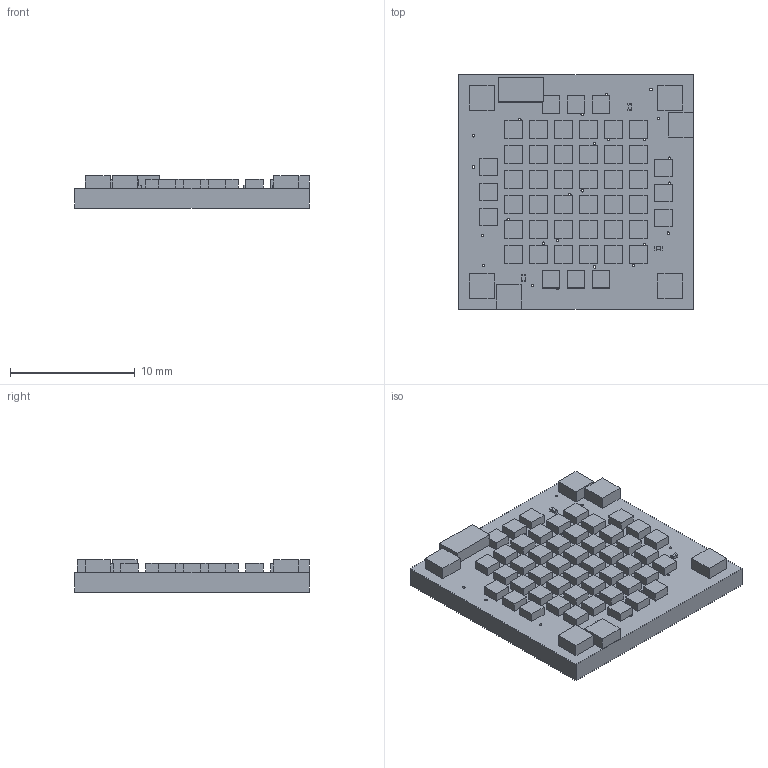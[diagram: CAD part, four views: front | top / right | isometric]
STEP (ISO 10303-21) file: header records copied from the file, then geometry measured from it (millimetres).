
FILE_DESCRIPTION((''),'2;1');
FILE_NAME('V19L19DD4_06072021_10-51-12_ASM','2021-06-07T',('SYSTEM'),(''),'PRO/ENGINEER BY PARAMETRIC TECHNOLOGY CORPORATION, 2009360','PRO/ENGINEER BY PARAMETRIC TECHNOLOGY CORPORATION, 2009360','');
FILE_SCHEMA(('AUTOMOTIVE_DESIGN_CC2 { 1 2 10303 214 -1 1 5 2 }'));
Products named in the file (7): V19L19DD4_06072021_10-51-12; FLIPCHIPWHITE10; RESC0603X26N; UL_0_0045MM; FIDUCIAL_R0_5MM; SOLDERPADS2_25; V19L19DD4_06072021_10-51-12_ASM
Assembly tree (59 placements, depth 2):
  V19L19DD4_06072021_10-51-12_ASM
    V19L19DD4_06072021_10-51-12
    FLIPCHIPWHITE10  x48
    RESC0603X26N  x3
    UL_0_0045MM
    FIDUCIAL_R0_5MM  x2
    SOLDERPADS2_25  x4
Bounding box: 18.8 x 18.8 x 2.6 mm (x, y, z)
Volume: 661.3 mm3; surface area: 1352.4 mm2
Topology: 59 solids, 59 shells, 1300 faces, 3096 edges, 2064 vertices
Faces by surface type: plane 1248, cylinder 52
Entity records: 5076 total; most frequent: DIRECTION 765, CARTESIAN_POINT 677, ORIENTED_EDGE 594, EDGE_CURVE 297, AXIS2_PLACEMENT_3D 286, PRESENTATION_STYLE_ASSIGNMENT 236, STYLED_ITEM 236, CURVE_STYLE 204
